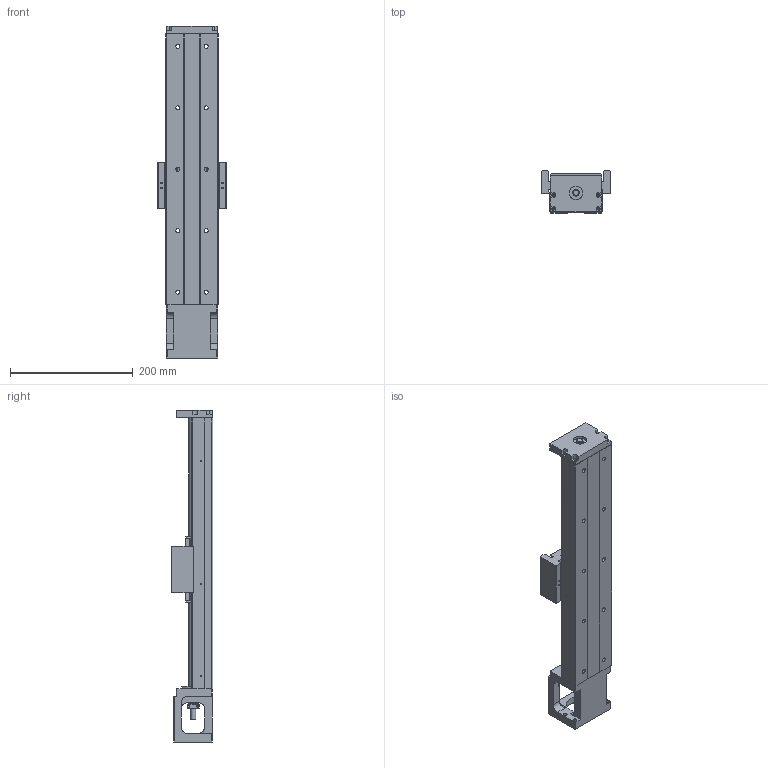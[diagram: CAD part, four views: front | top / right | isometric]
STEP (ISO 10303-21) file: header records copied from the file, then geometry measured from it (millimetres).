
FILE_DESCRIPTION(/* description */ (''),/* implementation_level */ '2;1');
FILE_NAME(/* name */ '46L-440.stp',/* time_stamp */ '2016-12-20T13:55:55+08:00',/* author */ (''),/* organization */ (''),/* preprocessor_version */ 'ST-DEVELOPER v11',/* originating_system */ 'SIEMENS UGS NX 6.0',/* authorisation */ '');
FILE_SCHEMA (('AUTOMOTIVE_DESIGN { 1 0 10303 214 1 1 1 1 }'));
Length unit declared in the file: millimetre
Products named in the file (1): model4
Bounding box: 112 x 68 x 540 mm (x, y, z)
Volume: 1354347.2 mm3; surface area: 287284.6 mm2
Topology: 6 solids, 14 shells, 678 faces, 1765 edges, 1159 vertices
Faces by surface type: plane 327, cylinder 239, cone 57, bspline 47, torus 8
Full cylindrical faces by diameter (mm): 2.11 x4, 2.15 x6, 2.42 x8, 2.5 x4, 3 x6, 3.2 x4, 3.3 x12, 3.4 x8, 4.2 x4, 4.5 x8, 5 x14, 6 x8, 6.35 x2, 6.6 x10, 8 x1, 9.6 x1, 10 x3, 11 x10, 12 x1, 14.95 x2, 15 x1, 16 x2, 22 x3, 27.5 x1, 44 x1, 50 x1
Entity records: 31023 total; most frequent: CARTESIAN_POINT 13002, ORIENTED_EDGE 3042, DIRECTION 2972, EDGE_CURVE 1521, VERTEX_POINT 1089, AXIS2_PLACEMENT_3D 1089, EDGE_LOOP 954, LINE 794
